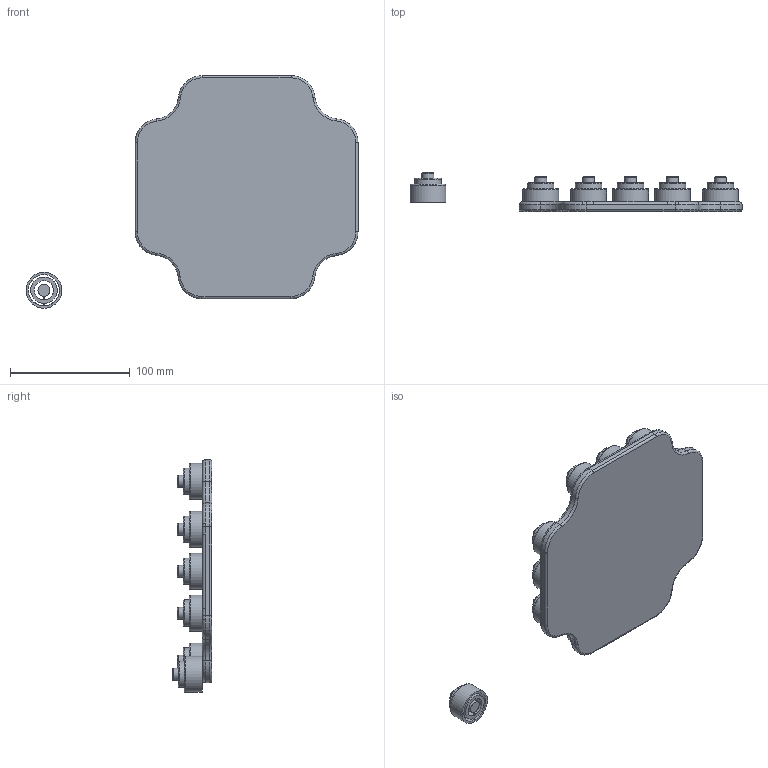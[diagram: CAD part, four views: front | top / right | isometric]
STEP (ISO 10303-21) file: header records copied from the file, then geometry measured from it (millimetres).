
FILE_DESCRIPTION(/* description */ (''),/* implementation_level */ '2;1');
FILE_NAME(/* name */ 'C:/Users/Psykk/3D Objects/Otrio v5.step',/* time_stamp */ '2021-12-12T11:15:12+01:00',/* author */ (''),/* organization */ (''),/* preprocessor_version */ 'ST-DEVELOPER v18.1',/* originating_system */ 'Autodesk Translation Framework v10.10.0.1391',/* authorisation */ '');
FILE_SCHEMA (('AUTOMOTIVE_DESIGN { 1 0 10303 214 3 1 1 }'));
Length unit declared in the file: millimetre
Products named in the file (1): Otrio
Bounding box: 277 x 33 x 194 mm (x, y, z)
Volume: 297754.8 mm3; surface area: 171914.6 mm2
Topology: 38 solids, 38 shells, 543 faces, 1170 edges, 764 vertices
Faces by surface type: cylinder 206, torus 176, plane 161
Full cylindrical faces by diameter (mm): 10 x34, 16 x34, 22 x34, 26 x34, 30 x34
Entity records: 15593 total; most frequent: DIRECTION 3136, CARTESIAN_POINT 2741, ORIENTED_EDGE 2340, AXIS2_PLACEMENT_3D 1445, EDGE_CURVE 1170, CIRCLE 901, VERTEX_POINT 764, EDGE_LOOP 656
